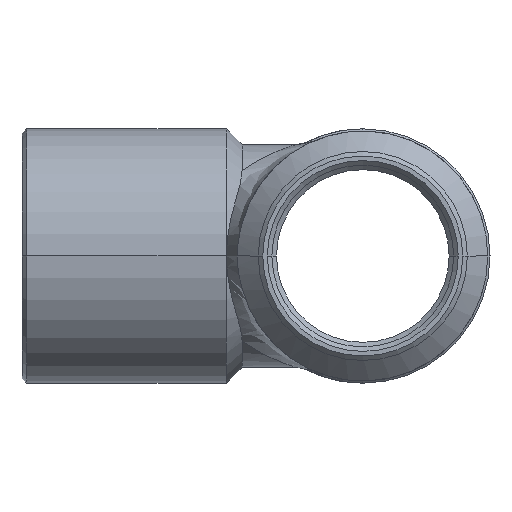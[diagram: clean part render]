
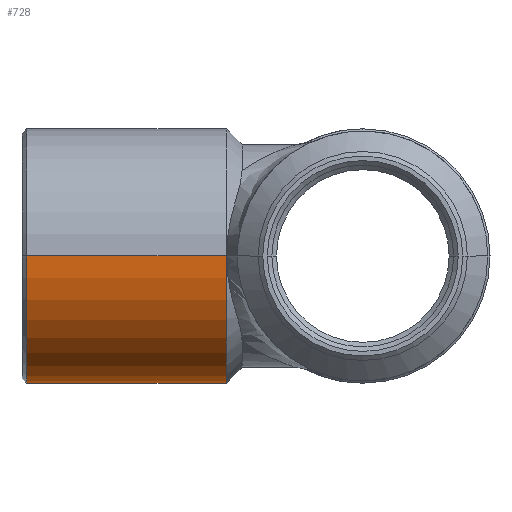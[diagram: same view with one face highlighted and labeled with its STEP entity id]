
A CAD part, left-side view. The second image highlights one B-rep face of the part: STEP entity #728.
In plain terms, the highlighted cylindrical face has radius 5.6 mm (diameter 11.2 mm), a partial arc.
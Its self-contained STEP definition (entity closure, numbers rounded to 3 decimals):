
#106=CARTESIAN_POINT('',(-5.6,6.01,0.));
#107=VERTEX_POINT('',#106);
#116=CARTESIAN_POINT('',(5.6,6.01,0.));
#117=VERTEX_POINT('',#116);
#118=CARTESIAN_POINT('',(0.,6.01,0.0));
#119=DIRECTION('',(0.0,-1.0,0.0));
#120=DIRECTION('',(-1.0,0.0,0.0));
#121=AXIS2_PLACEMENT_3D('',#118,#119,#120);
#122=CIRCLE('',#121,5.6);
#123=EDGE_CURVE('',#107,#117,#122,.T.);
#697=CARTESIAN_POINT('',(0.,15.0,0.0));
#698=DIRECTION('',(0.,-1.0,0.0));
#699=DIRECTION('',(-1.0,0.0,0.0));
#700=AXIS2_PLACEMENT_3D('',#697,#698,#699);
#701=CYLINDRICAL_SURFACE('',#700,5.6);
#702=CARTESIAN_POINT('',(-5.6,14.8,0.));
#703=VERTEX_POINT('',#702);
#704=CARTESIAN_POINT('',(-5.6,14.8,0.));
#705=DIRECTION('',(0.0,-1.0,0.0));
#706=VECTOR('',#705,8.79);
#707=LINE('',#704,#706);
#708=EDGE_CURVE('',#703,#107,#707,.T.);
#709=ORIENTED_EDGE('',*,*,#708,.F.);
#710=CARTESIAN_POINT('',(5.6,14.8,0.));
#711=VERTEX_POINT('',#710);
#712=CARTESIAN_POINT('',(0.,14.8,0.0));
#713=DIRECTION('',(0.0,1.0,0.0));
#714=DIRECTION('',(-1.0,0.0,0.0));
#715=AXIS2_PLACEMENT_3D('',#712,#713,#714);
#716=CIRCLE('',#715,5.6);
#717=EDGE_CURVE('',#711,#703,#716,.T.);
#718=ORIENTED_EDGE('',*,*,#717,.F.);
#719=CARTESIAN_POINT('',(5.6,6.01,0.));
#720=DIRECTION('',(0.0,1.0,0.0));
#721=VECTOR('',#720,8.79);
#722=LINE('',#719,#721);
#723=EDGE_CURVE('',#117,#711,#722,.T.);
#724=ORIENTED_EDGE('',*,*,#723,.F.);
#725=ORIENTED_EDGE('',*,*,#123,.F.);
#726=EDGE_LOOP('',(#709,#718,#724,#725));
#727=FACE_OUTER_BOUND('',#726,.T.);
#728=ADVANCED_FACE('',(#727),#701,.T.);
